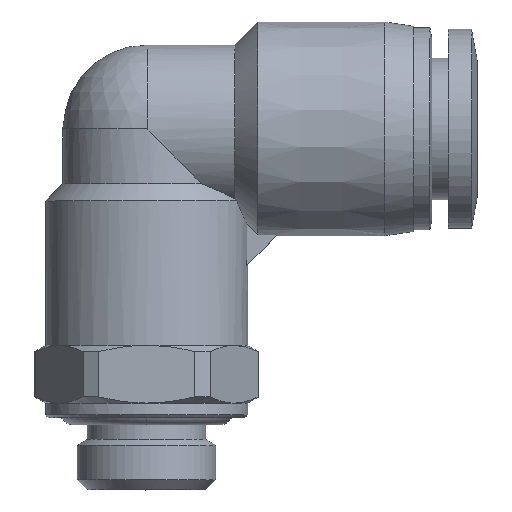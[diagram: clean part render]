
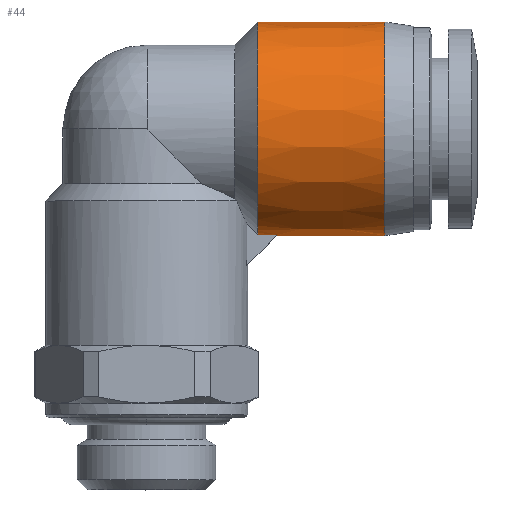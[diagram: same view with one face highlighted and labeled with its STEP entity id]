
A CAD part, top view. The second image highlights one B-rep face of the part: STEP entity #44.
In plain terms, the highlighted conical face has half-angle 0.001 degrees and reference radius 7.4 mm.
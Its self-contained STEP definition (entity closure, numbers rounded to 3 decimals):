
#15 = VERTEX_POINT ( 'NONE', #248 ) ;
#38 = CARTESIAN_POINT ( 'NONE',  ( 7.7, 19.774, 5.729 ) ) ;
#44 = ADVANCED_FACE ( 'NONE', ( #3329 ), #2877, .T. ) ;
#49 = CARTESIAN_POINT ( 'NONE',  ( 16.5, 9.082, 4.548 ) ) ;
#90 = CARTESIAN_POINT ( 'NONE',  ( 16.5, 20.918, 4.548 ) ) ;
#122 = CARTESIAN_POINT ( 'NONE',  ( 12.1, 22.4, 0. ) ) ;
#165 = ORIENTED_EDGE ( 'NONE', *, *, #2129, .T. ) ;
#189 = CARTESIAN_POINT ( 'NONE',  ( 16.5, 22.4, 0. ) ) ;
#248 = CARTESIAN_POINT ( 'NONE',  ( 7.7, 22.4, 0. ) ) ;
#427 = CARTESIAN_POINT ( 'NONE',  ( 16.5, 18.727, 6.466 ) ) ;
#520 = CARTESIAN_POINT ( 'NONE',  ( 16.5, 19.548, 5.918 ) ) ;
#522 = DIRECTION ( 'NONE',  ( 1., 0., 0. ) ) ;
#525 = CARTESIAN_POINT ( 'NONE',  ( 16.5, 7.6, 0. ) ) ;
#578 = CARTESIAN_POINT ( 'NONE',  ( 9.023, 7.623, 0.667 ) ) ;
#888 = CARTESIAN_POINT ( 'NONE',  ( 16.5, 22.207, 1.937 ) ) ;
#922 = CARTESIAN_POINT ( 'NONE',  ( 9., 7.6, 0. ) ) ;
#955 = ORIENTED_EDGE ( 'NONE', *, *, #4111, .F. ) ;
#1128 = EDGE_CURVE ( 'NONE', #1324, #4470, #4047, .T. ) ;
#1133 = B_SPLINE_CURVE_WITH_KNOTS ( 'NONE', 3,
 ( #922, #3702, #578, #2466 ),
 .UNSPECIFIED., .F., .F.,
 ( 4, 4 ),
 ( 0.5, 1. ),
 .UNSPECIFIED. ) ;
#1254 = VERTEX_POINT ( 'NONE', #2537 ) ;
#1324 = VERTEX_POINT ( 'NONE', #2584 ) ;
#1392 = ORIENTED_EDGE ( 'NONE', *, *, #4294, .F. ) ;
#1485 = CARTESIAN_POINT ( 'NONE',  ( 16.5, 11.273, 6.466 ) ) ;
#1520 = DIRECTION ( 'NONE',  ( 1., 0., 0. ) ) ;
#1597 = CARTESIAN_POINT ( 'NONE',  ( 12.1, 15., 0. ) ) ;
#1616 = DIRECTION ( 'NONE',  ( 1., 0., 0. ) ) ;
#1768 = CARTESIAN_POINT ( 'NONE',  ( 7.7, 22.224, 1.853 ) ) ;
#1818 = CARTESIAN_POINT ( 'NONE',  ( 16.5, 14.031, 7.4 ) ) ;
#1952 = CARTESIAN_POINT ( 'NONE',  ( 16.5, 21.466, 3.727 ) ) ;
#2113 = CARTESIAN_POINT ( 'NONE',  ( 7.7, 7.668, 1. ) ) ;
#2129 = EDGE_CURVE ( 'NONE', #15, #4172, #4501, .T. ) ;
#2132 = CARTESIAN_POINT ( 'NONE',  ( 7.7, 21.04, 4.375 ) ) ;
#2240 = LINE ( 'NONE', #122, #3548 ) ;
#2246 = CARTESIAN_POINT ( 'NONE',  ( 7.7, 9., 4.429 ) ) ;
#2266 = CARTESIAN_POINT ( 'NONE',  ( 7.7, 9.607, 5.151 ) ) ;
#2381 = B_SPLINE_CURVE_WITH_KNOTS ( 'NONE', 3,
 ( #3485, #2457, #3846, #2113 ),
 .UNSPECIFIED., .F., .F.,
 ( 4, 4 ),
 ( 0., 1. ),
 .UNSPECIFIED. ) ;
#2392 = EDGE_CURVE ( 'NONE', #1254, #4470, #2566, .T. ) ;
#2400 = CARTESIAN_POINT ( 'NONE',  ( 12.1, 7.6, 0. ) ) ;
#2457 = CARTESIAN_POINT ( 'NONE',  ( 8.612, 7.668, 1. ) ) ;
#2466 = CARTESIAN_POINT ( 'NONE',  ( 9.068, 7.668, 1. ) ) ;
#2485 = CARTESIAN_POINT ( 'NONE',  ( 16.5, 10.452, 5.918 ) ) ;
#2505 = CARTESIAN_POINT ( 'NONE',  ( 16.5, 13.063, 7.207 ) ) ;
#2537 = CARTESIAN_POINT ( 'NONE',  ( 16.5, 22.4, 0. ) ) ;
#2566 = B_SPLINE_CURVE_WITH_KNOTS ( 'NONE', 3,
 ( #189, #2968, #888, #1952, #90, #520, #427, #4365, #2955, #1818, #2505, #1485, #2485, #49, #2617, #4252, #3872, #3214 ),
 .UNSPECIFIED., .F., .F.,
 ( 4, 2, 2, 2, 2, 2, 2, 2, 4 ),
 ( 0., 0.063, 0.125, 0.188, 0.25, 0.313, 0.375, 0.438, 0.5 ),
 .UNSPECIFIED. ) ;
#2584 = CARTESIAN_POINT ( 'NONE',  ( 9., 7.6, 0. ) ) ;
#2617 = CARTESIAN_POINT ( 'NONE',  ( 16.5, 8.534, 3.727 ) ) ;
#2765 = EDGE_LOOP ( 'NONE', ( #1392, #3371, #3770, #955, #165, #4223 ) ) ;
#2817 = CARTESIAN_POINT ( 'NONE',  ( 7.7, 19.013, 6.286 ) ) ;
#2877 = CONICAL_SURFACE ( 'NONE', #4040, 7.4, 0. ) ;
#2886 = CARTESIAN_POINT ( 'NONE',  ( 9.068, 7.668, 1. ) ) ;
#2905 = CARTESIAN_POINT ( 'NONE',  ( 7.7, 14.576, 7.446 ) ) ;
#2955 = CARTESIAN_POINT ( 'NONE',  ( 16.5, 15.969, 7.4 ) ) ;
#2968 = CARTESIAN_POINT ( 'NONE',  ( 16.5, 22.4, 0.969 ) ) ;
#2974 = CARTESIAN_POINT ( 'NONE',  ( 7.7, 11.874, 6.771 ) ) ;
#2991 = CARTESIAN_POINT ( 'NONE',  ( 7.7, 7.668, 1. ) ) ;
#3165 = CARTESIAN_POINT ( 'NONE',  ( 7.7, 21.543, 3.578 ) ) ;
#3214 = CARTESIAN_POINT ( 'NONE',  ( 16.5, 7.6, 0. ) ) ;
#3240 = VECTOR ( 'NONE', #1616, 1000. ) ;
#3304 = DIRECTION ( 'NONE',  ( 0., 1., 0. ) ) ;
#3321 = CARTESIAN_POINT ( 'NONE',  ( 7.7, 7.793, 1.918 ) ) ;
#3329 = FACE_OUTER_BOUND ( 'NONE', #2765, .T. ) ;
#3371 = ORIENTED_EDGE ( 'NONE', *, *, #1128, .T. ) ;
#3393 = VERTEX_POINT ( 'NONE', #2886 ) ;
#3485 = CARTESIAN_POINT ( 'NONE',  ( 9.068, 7.668, 1. ) ) ;
#3525 = CARTESIAN_POINT ( 'NONE',  ( 7.7, 16.426, 7.32 ) ) ;
#3548 = VECTOR ( 'NONE', #1520, 1000. ) ;
#3619 = CARTESIAN_POINT ( 'NONE',  ( 7.7, 8.093, 2.813 ) ) ;
#3702 = CARTESIAN_POINT ( 'NONE',  ( 9., 7.6, 0.333 ) ) ;
#3725 = EDGE_CURVE ( 'NONE', #3393, #4172, #2381, .T. ) ;
#3770 = ORIENTED_EDGE ( 'NONE', *, *, #2392, .F. ) ;
#3821 = CARTESIAN_POINT ( 'NONE',  ( 7.7, 22.4, 0.927 ) ) ;
#3846 = CARTESIAN_POINT ( 'NONE',  ( 8.156, 7.668, 1. ) ) ;
#3872 = CARTESIAN_POINT ( 'NONE',  ( 16.5, 7.6, 0.969 ) ) ;
#4040 = AXIS2_PLACEMENT_3D ( 'NONE', #1597, #522, #3304 ) ;
#4047 = LINE ( 'NONE', #2400, #3240 ) ;
#4111 = EDGE_CURVE ( 'NONE', #15, #1254, #2240, .T. ) ;
#4172 = VERTEX_POINT ( 'NONE', #2991 ) ;
#4205 = CARTESIAN_POINT ( 'NONE',  ( 7.7, 17.338, 7.082 ) ) ;
#4223 = ORIENTED_EDGE ( 'NONE', *, *, #3725, .F. ) ;
#4245 = CARTESIAN_POINT ( 'NONE',  ( 7.7, 22.4, 0. ) ) ;
#4252 = CARTESIAN_POINT ( 'NONE',  ( 16.5, 7.793, 1.937 ) ) ;
#4290 = CARTESIAN_POINT ( 'NONE',  ( 7.7, 7.668, 1. ) ) ;
#4294 = EDGE_CURVE ( 'NONE', #1324, #3393, #1133, .T. ) ;
#4313 = CARTESIAN_POINT ( 'NONE',  ( 7.7, 13.64, 7.333 ) ) ;
#4361 = CARTESIAN_POINT ( 'NONE',  ( 7.7, 11.044, 6.322 ) ) ;
#4365 = CARTESIAN_POINT ( 'NONE',  ( 16.5, 16.937, 7.207 ) ) ;
#4470 = VERTEX_POINT ( 'NONE', #525 ) ;
#4501 = B_SPLINE_CURVE_WITH_KNOTS ( 'NONE', 3,
 ( #4245, #3821, #1768, #3165, #2132, #38, #2817, #4205, #3525, #2905, #4313, #2974, #4361, #2266, #2246, #3619, #3321, #4290 ),
 .UNSPECIFIED., .F., .F.,
 ( 4, 2, 2, 2, 2, 2, 2, 2, 4 ),
 ( 0.5, 0.563, 0.625, 0.688, 0.75, 0.813, 0.875, 0.938, 1. ),
 .UNSPECIFIED. ) ;
